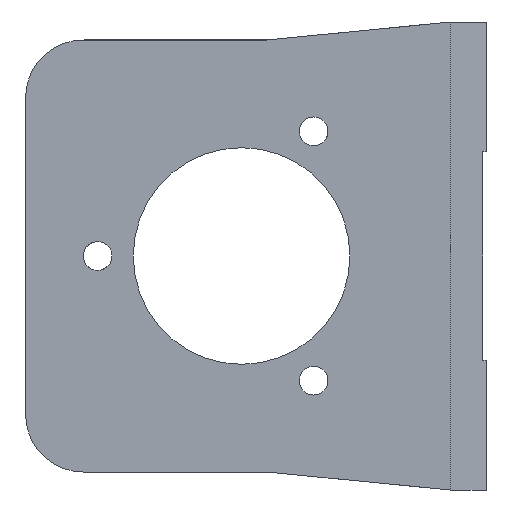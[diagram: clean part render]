
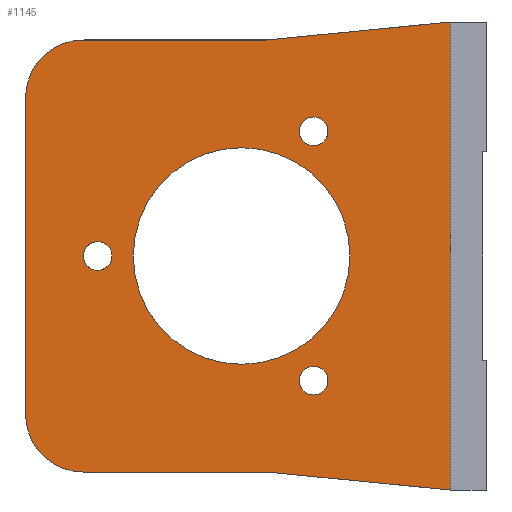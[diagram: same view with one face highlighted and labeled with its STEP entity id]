
A CAD part, front view. The second image highlights one B-rep face of the part: STEP entity #1145.
In plain terms, the highlighted planar face has unit normal (0, -1, 0).
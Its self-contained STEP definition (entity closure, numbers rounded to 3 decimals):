
#29 = AXIS2_PLACEMENT_3D ( 'NONE', #5708, #2501, #6236 ) ;
#74 = VECTOR ( 'NONE', #3960, 1000. ) ;
#137 = DIRECTION ( 'NONE',  ( 0., 0., -1. ) ) ;
#234 = LINE ( 'NONE', #2916, #4339 ) ;
#247 = ORIENTED_EDGE ( 'NONE', *, *, #332, .F. ) ;
#332 = EDGE_CURVE ( 'NONE', #6831, #4694, #1559, .T. ) ;
#413 = DIRECTION ( 'NONE',  ( 0., 0., -1. ) ) ;
#531 = DIRECTION ( 'NONE',  ( 0., -1., 0. ) ) ;
#540 = ORIENTED_EDGE ( 'NONE', *, *, #5437, .F. ) ;
#543 = CIRCLE ( 'NONE', #2835, 2. ) ;
#687 = DIRECTION ( 'NONE',  ( 0.995, 0., 0.098 ) ) ;
#708 = DIRECTION ( 'NONE',  ( -1., 0., 0. ) ) ;
#710 = CARTESIAN_POINT ( 'NONE',  ( -24., 0., 19.321 ) ) ;
#714 = EDGE_CURVE ( 'NONE', #2502, #6266, #3891, .T. ) ;
#752 = CIRCLE ( 'NONE', #6126, 2. ) ;
#901 = VERTEX_POINT ( 'NONE', #710 ) ;
#1057 = EDGE_LOOP ( 'NONE', ( #1994, #1859 ) ) ;
#1059 = CARTESIAN_POINT ( 'NONE',  ( -34., 0., 0. ) ) ;
#1145 = ADVANCED_FACE ( 'NONE', ( #5056, #2060, #6147, #4729, #3299 ), #5225, .F. ) ;
#1172 = VERTEX_POINT ( 'NONE', #5243 ) ;
#1240 = CARTESIAN_POINT ( 'NONE',  ( -56., 0., 22. ) ) ;
#1263 = AXIS2_PLACEMENT_3D ( 'NONE', #1310, #5040, #1849 ) ;
#1310 = CARTESIAN_POINT ( 'NONE',  ( -24., 0., -17.321 ) ) ;
#1337 = VERTEX_POINT ( 'NONE', #3790 ) ;
#1398 = ORIENTED_EDGE ( 'NONE', *, *, #6042, .F. ) ;
#1458 = EDGE_CURVE ( 'NONE', #2895, #5410, #543, .T. ) ;
#1493 = AXIS2_PLACEMENT_3D ( 'NONE', #3737, #531, #4286 ) ;
#1525 = CARTESIAN_POINT ( 'NONE',  ( -64., 0., 22. ) ) ;
#1546 = VERTEX_POINT ( 'NONE', #5159 ) ;
#1559 = CIRCLE ( 'NONE', #4808, 15.05 ) ;
#1603 = DIRECTION ( 'NONE',  ( 0., 0., 1. ) ) ;
#1726 = EDGE_LOOP ( 'NONE', ( #2112, #6837 ) ) ;
#1754 = CARTESIAN_POINT ( 'NONE',  ( -30.5, 0., 30. ) ) ;
#1776 = DIRECTION ( 'NONE',  ( 0., -1., 0. ) ) ;
#1843 = EDGE_CURVE ( 'NONE', #1546, #6266, #5817, .T. ) ;
#1849 = DIRECTION ( 'NONE',  ( 0., 0., 1. ) ) ;
#1859 = ORIENTED_EDGE ( 'NONE', *, *, #6015, .F. ) ;
#1965 = CARTESIAN_POINT ( 'NONE',  ( -24., 0., -15.321 ) ) ;
#1994 = ORIENTED_EDGE ( 'NONE', *, *, #2920, .F. ) ;
#2060 = FACE_BOUND ( 'NONE', #2597, .T. ) ;
#2065 = CARTESIAN_POINT ( 'NONE',  ( -24., 0., 15.321 ) ) ;
#2083 = CARTESIAN_POINT ( 'NONE',  ( -5., 0., -32.5 ) ) ;
#2112 = ORIENTED_EDGE ( 'NONE', *, *, #4942, .F. ) ;
#2126 = CIRCLE ( 'NONE', #4328, 15.05 ) ;
#2152 = DIRECTION ( 'NONE',  ( 0., -1., 0. ) ) ;
#2278 = CARTESIAN_POINT ( 'NONE',  ( -34., 0., -15.05 ) ) ;
#2337 = VECTOR ( 'NONE', #413, 1000. ) ;
#2404 = DIRECTION ( 'NONE',  ( 0., -1., 0. ) ) ;
#2405 = DIRECTION ( 'NONE',  ( 1., 0., 0. ) ) ;
#2501 = DIRECTION ( 'NONE',  ( 0., -1., 0. ) ) ;
#2502 = VERTEX_POINT ( 'NONE', #5273 ) ;
#2534 = ORIENTED_EDGE ( 'NONE', *, *, #1843, .F. ) ;
#2548 = CARTESIAN_POINT ( 'NONE',  ( -5., 0., 32.5 ) ) ;
#2571 = DIRECTION ( 'NONE',  ( 0., -1., 0. ) ) ;
#2597 = EDGE_LOOP ( 'NONE', ( #6869, #247 ) ) ;
#2615 = AXIS2_PLACEMENT_3D ( 'NONE', #6290, #3092, #6826 ) ;
#2676 = CIRCLE ( 'NONE', #4518, 8. ) ;
#2779 = DIRECTION ( 'NONE',  ( 0., -1., 0. ) ) ;
#2835 = AXIS2_PLACEMENT_3D ( 'NONE', #5608, #2404, #6139 ) ;
#2895 = VERTEX_POINT ( 'NONE', #5142 ) ;
#2916 = CARTESIAN_POINT ( 'NONE',  ( -56., 0., 30. ) ) ;
#2920 = EDGE_CURVE ( 'NONE', #1172, #6184, #3119, .T. ) ;
#2963 = VECTOR ( 'NONE', #3209, 1000. ) ;
#3046 = CARTESIAN_POINT ( 'NONE',  ( -34., 0., 15.05 ) ) ;
#3092 = DIRECTION ( 'NONE',  ( 0., 1., 0. ) ) ;
#3103 = EDGE_CURVE ( 'NONE', #4694, #6831, #2126, .T. ) ;
#3119 = CIRCLE ( 'NONE', #29, 2. ) ;
#3171 = EDGE_LOOP ( 'NONE', ( #2534, #6903, #5316, #540, #5834, #3922, #1398, #6440 ) ) ;
#3198 = CARTESIAN_POINT ( 'NONE',  ( -56., 0., -30. ) ) ;
#3209 = DIRECTION ( 'NONE',  ( 0., 0., 1. ) ) ;
#3211 = CARTESIAN_POINT ( 'NONE',  ( -34., 0., 0. ) ) ;
#3253 = VECTOR ( 'NONE', #708, 1000. ) ;
#3299 = FACE_BOUND ( 'NONE', #3945, .T. ) ;
#3303 = VERTEX_POINT ( 'NONE', #2083 ) ;
#3339 = DIRECTION ( 'NONE',  ( 0., -1., 0. ) ) ;
#3588 = LINE ( 'NONE', #1754, #4848 ) ;
#3733 = DIRECTION ( 'NONE',  ( 0., 0., -1. ) ) ;
#3737 = CARTESIAN_POINT ( 'NONE',  ( -24., 0., 17.321 ) ) ;
#3790 = CARTESIAN_POINT ( 'NONE',  ( -5., 0., 32.5 ) ) ;
#3891 = CIRCLE ( 'NONE', #6096, 8. ) ;
#3922 = ORIENTED_EDGE ( 'NONE', *, *, #5343, .F. ) ;
#3935 = AXIS2_PLACEMENT_3D ( 'NONE', #6546, #3339, #137 ) ;
#3945 = EDGE_LOOP ( 'NONE', ( #6762, #5054 ) ) ;
#3960 = DIRECTION ( 'NONE',  ( -0.995, 0., 0.098 ) ) ;
#4011 = CIRCLE ( 'NONE', #3935, 2. ) ;
#4280 = EDGE_CURVE ( 'NONE', #4309, #901, #752, .T. ) ;
#4286 = DIRECTION ( 'NONE',  ( 0., 0., 1. ) ) ;
#4309 = VERTEX_POINT ( 'NONE', #2065 ) ;
#4328 = AXIS2_PLACEMENT_3D ( 'NONE', #1059, #4793, #1603 ) ;
#4339 = VECTOR ( 'NONE', #2405, 1000. ) ;
#4518 = AXIS2_PLACEMENT_3D ( 'NONE', #5984, #2779, #6518 ) ;
#4694 = VERTEX_POINT ( 'NONE', #3046 ) ;
#4725 = EDGE_CURVE ( 'NONE', #1337, #3303, #5355, .T. ) ;
#4729 = FACE_BOUND ( 'NONE', #1057, .T. ) ;
#4734 = CARTESIAN_POINT ( 'NONE',  ( -30.5, 0., -30. ) ) ;
#4793 = DIRECTION ( 'NONE',  ( 0., -1., 0. ) ) ;
#4808 = AXIS2_PLACEMENT_3D ( 'NONE', #3211, #2152, #3733 ) ;
#4848 = VECTOR ( 'NONE', #687, 1000. ) ;
#4929 = CARTESIAN_POINT ( 'NONE',  ( -30.5, 0., 30. ) ) ;
#4942 = EDGE_CURVE ( 'NONE', #5410, #2895, #4011, .T. ) ;
#4965 = CARTESIAN_POINT ( 'NONE',  ( -54., 0., -2. ) ) ;
#5040 = DIRECTION ( 'NONE',  ( 0., -1., 0. ) ) ;
#5054 = ORIENTED_EDGE ( 'NONE', *, *, #6283, .F. ) ;
#5056 = FACE_OUTER_BOUND ( 'NONE', #3171, .T. ) ;
#5142 = CARTESIAN_POINT ( 'NONE',  ( -54., 0., 2. ) ) ;
#5159 = CARTESIAN_POINT ( 'NONE',  ( -64., 0., -22. ) ) ;
#5225 = PLANE ( 'NONE',  #2615 ) ;
#5243 = CARTESIAN_POINT ( 'NONE',  ( -24., 0., -19.321 ) ) ;
#5273 = CARTESIAN_POINT ( 'NONE',  ( -56., 0., 30. ) ) ;
#5280 = VERTEX_POINT ( 'NONE', #3198 ) ;
#5295 = EDGE_CURVE ( 'NONE', #1546, #5280, #2676, .T. ) ;
#5316 = ORIENTED_EDGE ( 'NONE', *, *, #5393, .F. ) ;
#5343 = EDGE_CURVE ( 'NONE', #5917, #1337, #3588, .T. ) ;
#5355 = LINE ( 'NONE', #2548, #2337 ) ;
#5393 = EDGE_CURVE ( 'NONE', #6665, #5280, #6436, .T. ) ;
#5410 = VERTEX_POINT ( 'NONE', #4965 ) ;
#5437 = EDGE_CURVE ( 'NONE', #3303, #6665, #5937, .T. ) ;
#5535 = DIRECTION ( 'NONE',  ( 0., 0., 1. ) ) ;
#5608 = CARTESIAN_POINT ( 'NONE',  ( -54., 0., 0. ) ) ;
#5708 = CARTESIAN_POINT ( 'NONE',  ( -24., 0., -17.321 ) ) ;
#5780 = CARTESIAN_POINT ( 'NONE',  ( -24., 0., 17.321 ) ) ;
#5817 = LINE ( 'NONE', #5936, #2963 ) ;
#5834 = ORIENTED_EDGE ( 'NONE', *, *, #4725, .F. ) ;
#5917 = VERTEX_POINT ( 'NONE', #4929 ) ;
#5936 = CARTESIAN_POINT ( 'NONE',  ( -64., 0., -22. ) ) ;
#5937 = LINE ( 'NONE', #6629, #74 ) ;
#5984 = CARTESIAN_POINT ( 'NONE',  ( -56., 0., -22. ) ) ;
#6007 = CIRCLE ( 'NONE', #1493, 2. ) ;
#6015 = EDGE_CURVE ( 'NONE', #6184, #1172, #6253, .T. ) ;
#6042 = EDGE_CURVE ( 'NONE', #2502, #5917, #234, .T. ) ;
#6044 = CARTESIAN_POINT ( 'NONE',  ( -30.5, 0., -30. ) ) ;
#6096 = AXIS2_PLACEMENT_3D ( 'NONE', #1240, #1776, #5535 ) ;
#6126 = AXIS2_PLACEMENT_3D ( 'NONE', #5780, #2571, #6310 ) ;
#6139 = DIRECTION ( 'NONE',  ( 0., 0., 1. ) ) ;
#6147 = FACE_BOUND ( 'NONE', #1726, .T. ) ;
#6184 = VERTEX_POINT ( 'NONE', #1965 ) ;
#6236 = DIRECTION ( 'NONE',  ( 0., 0., -1. ) ) ;
#6253 = CIRCLE ( 'NONE', #1263, 2. ) ;
#6266 = VERTEX_POINT ( 'NONE', #1525 ) ;
#6283 = EDGE_CURVE ( 'NONE', #901, #4309, #6007, .T. ) ;
#6290 = CARTESIAN_POINT ( 'NONE',  ( -32., 0., 0. ) ) ;
#6310 = DIRECTION ( 'NONE',  ( 0., 0., -1. ) ) ;
#6436 = LINE ( 'NONE', #6044, #3253 ) ;
#6440 = ORIENTED_EDGE ( 'NONE', *, *, #714, .T. ) ;
#6518 = DIRECTION ( 'NONE',  ( -1., 0., 0. ) ) ;
#6546 = CARTESIAN_POINT ( 'NONE',  ( -54., 0., 0. ) ) ;
#6629 = CARTESIAN_POINT ( 'NONE',  ( -5., 0., -32.5 ) ) ;
#6665 = VERTEX_POINT ( 'NONE', #4734 ) ;
#6762 = ORIENTED_EDGE ( 'NONE', *, *, #4280, .F. ) ;
#6826 = DIRECTION ( 'NONE',  ( 1., 0., 0. ) ) ;
#6831 = VERTEX_POINT ( 'NONE', #2278 ) ;
#6837 = ORIENTED_EDGE ( 'NONE', *, *, #1458, .F. ) ;
#6869 = ORIENTED_EDGE ( 'NONE', *, *, #3103, .F. ) ;
#6903 = ORIENTED_EDGE ( 'NONE', *, *, #5295, .T. ) ;
